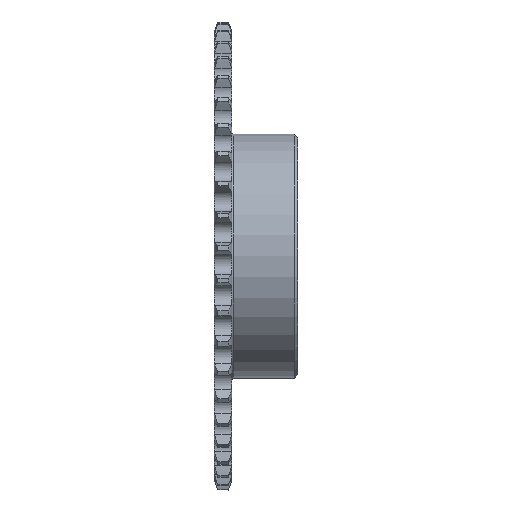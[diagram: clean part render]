
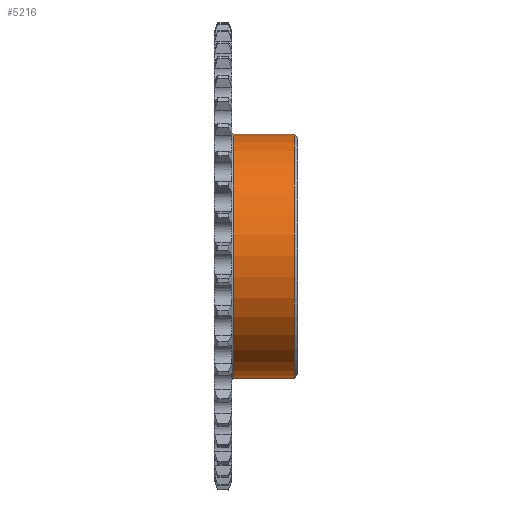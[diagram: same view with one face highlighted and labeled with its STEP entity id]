
A CAD part, front view. The second image highlights one B-rep face of the part: STEP entity #5216.
In plain terms, the highlighted cylindrical face has radius 36.5 mm (diameter 73 mm), a full revolution.
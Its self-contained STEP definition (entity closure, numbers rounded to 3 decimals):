
#114=FACE_BOUND('',#970,.T.);
#402=CIRCLE('',#5783,36.5);
#403=CIRCLE('',#5785,36.5);
#683=FACE_OUTER_BOUND('',#969,.T.);
#969=EDGE_LOOP('',(#4745));
#970=EDGE_LOOP('',(#4746));
#2255=VERTEX_POINT('',#10451);
#2256=VERTEX_POINT('',#10454);
#3087=EDGE_CURVE('',#2255,#2255,#402,.T.);
#3088=EDGE_CURVE('',#2256,#2256,#403,.T.);
#4745=ORIENTED_EDGE('',*,*,#3088,.F.);
#4746=ORIENTED_EDGE('',*,*,#3087,.T.);
#4936=CYLINDRICAL_SURFACE('',#5784,36.5);
#5216=ADVANCED_FACE('',(#683,#114),#4936,.T.);
#5783=AXIS2_PLACEMENT_3D('',#10452,#7094,#7095);
#5784=AXIS2_PLACEMENT_3D('',#10453,#7096,#7097);
#5785=AXIS2_PLACEMENT_3D('',#10455,#7098,#7099);
#7094=DIRECTION('center_axis',(1.,0.,0.));
#7095=DIRECTION('ref_axis',(0.,0.,-1.));
#7096=DIRECTION('center_axis',(1.,0.,0.));
#7097=DIRECTION('ref_axis',(0.,1.,0.));
#7098=DIRECTION('center_axis',(1.,0.,0.));
#7099=DIRECTION('ref_axis',(0.,0.,-1.));
#10451=CARTESIAN_POINT('',(-3.135,21.478,0.));
#10452=CARTESIAN_POINT('Origin',(-3.135,-15.022,0.));
#10453=CARTESIAN_POINT('Origin',(6.015,-15.022,0.));
#10454=CARTESIAN_POINT('',(15.165,21.478,0.));
#10455=CARTESIAN_POINT('Origin',(15.165,-15.022,0.));
